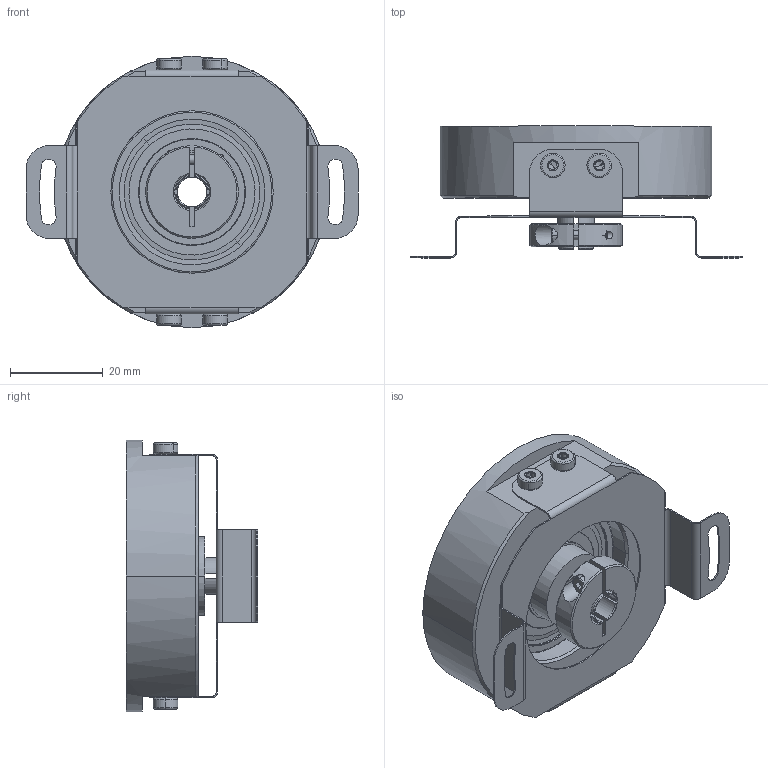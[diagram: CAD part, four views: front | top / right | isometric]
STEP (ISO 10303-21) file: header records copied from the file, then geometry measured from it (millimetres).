
FILE_DESCRIPTION (( 'STEP AP214' ), '1' );
FILE_NAME ('drawing-ucd-hrp0-q5b-n.STEP', '2017-05-18T07:20:09', ( '' ), ( '' ), 'SwSTEP 2.0', 'SolidWorks 2017', '' );
FILE_SCHEMA (( 'AUTOMOTIVE_DESIGN' ));
Length unit declared in the file: millimetre
Products named in the file (1): drawing-ucd-hrp0-q5b-n
Bounding box: 71.57 x 28.4 x 58.5 mm (x, y, z)
Volume: 36772.9 mm3; surface area: 25195.4 mm2
Topology: 22 solids, 22 shells, 815 faces, 1889 edges, 1087 vertices
Faces by surface type: cone 324, cylinder 249, plane 148, bspline 50, torus 44
Entity records: 33901 total; most frequent: CARTESIAN_POINT 6277, DIRECTION 4163, ORIENTED_EDGE 3678, EDGE_CURVE 1839, AXIS2_PLACEMENT_3D 1726, VERTEX_POINT 1087, CIRCLE 960, EDGE_LOOP 870
